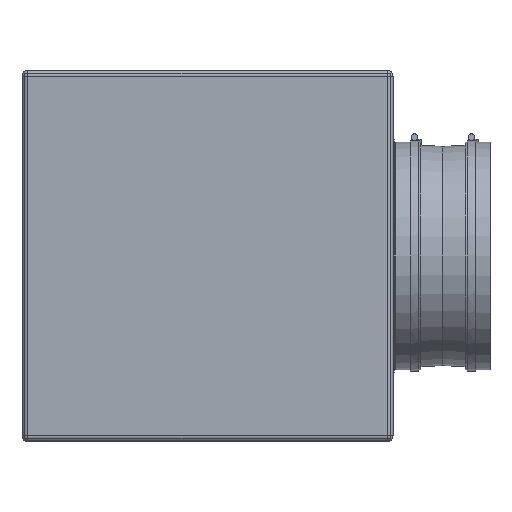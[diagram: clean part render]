
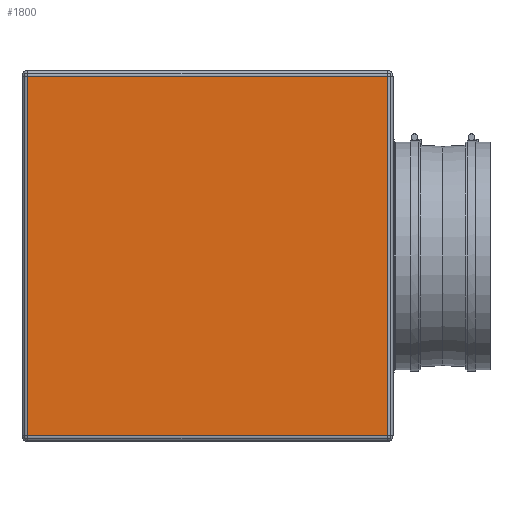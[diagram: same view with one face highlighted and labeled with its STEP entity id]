
A CAD part, left-side view. The second image highlights one B-rep face of the part: STEP entity #1800.
In plain terms, the highlighted planar face has unit normal (-1, 0, 0).
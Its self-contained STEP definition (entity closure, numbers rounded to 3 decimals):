
#153=PLANE('',#2008);
#248=FACE_OUTER_BOUND('',#411,.T.);
#411=EDGE_LOOP('',(#1413,#1414,#1415,#1416));
#553=LINE('',#2864,#647);
#556=LINE('',#2897,#650);
#559=LINE('',#2901,#653);
#575=LINE('',#2939,#669);
#647=VECTOR('',#2316,10.);
#650=VECTOR('',#2355,10.);
#653=VECTOR('',#2360,10.);
#669=VECTOR('',#2408,10.);
#887=VERTEX_POINT('',#2852);
#888=VERTEX_POINT('',#2856);
#891=VERTEX_POINT('',#2866);
#902=VERTEX_POINT('',#2893);
#1061=EDGE_CURVE('',#888,#887,#553,.T.);
#1076=EDGE_CURVE('',#891,#902,#556,.T.);
#1079=EDGE_CURVE('',#902,#888,#559,.T.);
#1101=EDGE_CURVE('',#887,#891,#575,.T.);
#1413=ORIENTED_EDGE('',*,*,#1076,.F.);
#1414=ORIENTED_EDGE('',*,*,#1101,.F.);
#1415=ORIENTED_EDGE('',*,*,#1061,.F.);
#1416=ORIENTED_EDGE('',*,*,#1079,.F.);
#1800=ADVANCED_FACE('',(#248),#153,.T.);
#2008=AXIS2_PLACEMENT_3D('',#2941,#2411,#2412);
#2316=DIRECTION('',(0.,1.,0.));
#2355=DIRECTION('',(0.,-1.,0.));
#2360=DIRECTION('',(0.,0.,-1.));
#2408=DIRECTION('',(0.,0.,1.));
#2411=DIRECTION('center_axis',(-1.,0.,0.));
#2412=DIRECTION('ref_axis',(0.,0.,1.));
#2852=CARTESIAN_POINT('',(-335.,325.,-325.));
#2856=CARTESIAN_POINT('',(-335.,-325.,-325.));
#2864=CARTESIAN_POINT('',(-335.,0.,-325.));
#2866=CARTESIAN_POINT('',(-335.,325.,325.));
#2893=CARTESIAN_POINT('',(-335.,-325.,325.));
#2897=CARTESIAN_POINT('',(-335.,0.,325.));
#2901=CARTESIAN_POINT('',(-335.,-325.,-167.5));
#2939=CARTESIAN_POINT('',(-335.,325.,-167.5));
#2941=CARTESIAN_POINT('Origin',(-335.,0.,-335.));
